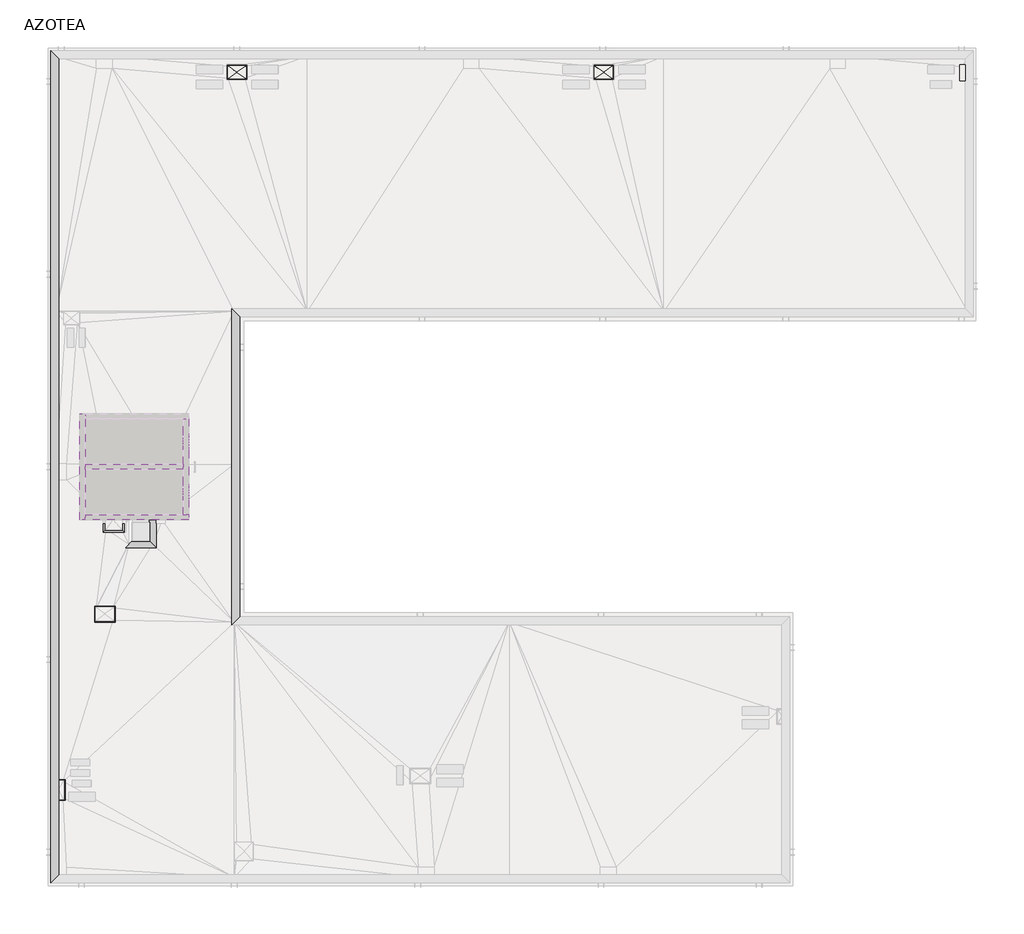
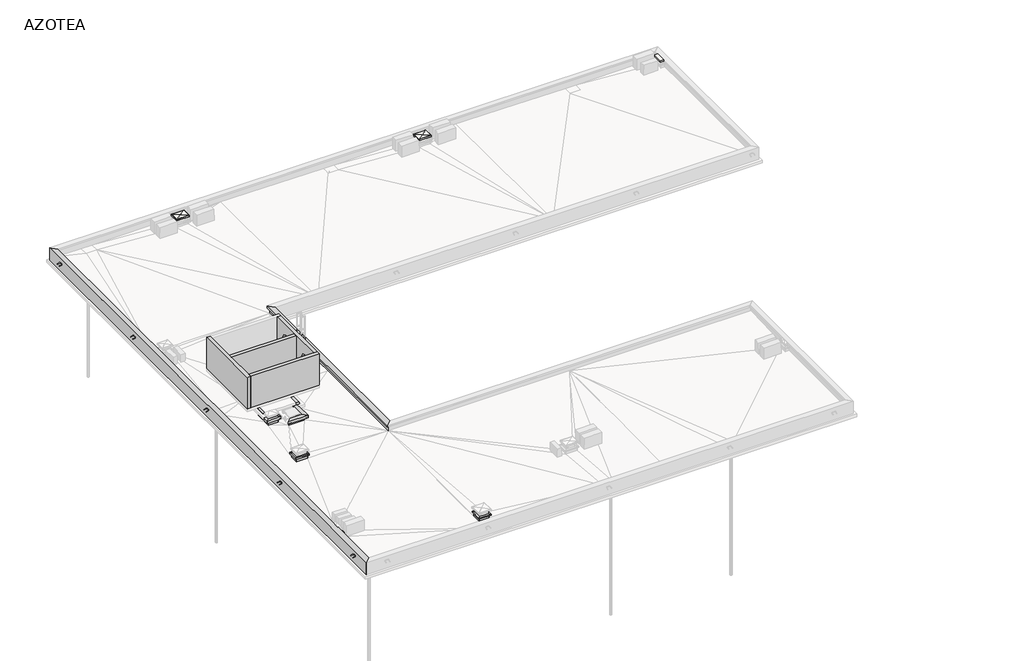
# One storey, part 4 of 6: 24 beams, 3 slabs, 2 proxies.
"""IFC4 building model written with IfcOpenShell, lengths in millimetres."""

from ifc_helpers import new_model, si_unit, frame, origin, place, context, project, spatial, polyline, circle_curve, outline, extrude, faceted_brep, element, save
from ifc_brep_helpers import plane_surface, revolved_surface, advanced_brep

model = new_model("IFC4")

# Units and contexts
model_context = context("Model", 3, world=origin())
ifc_project = project(units=[si_unit("LENGTHUNIT", "METRE", prefix="MILLI")], contexts=[model_context])

# Site, building, storey
site = spatial("IfcSite", under=ifc_project)
building = spatial("IfcBuilding", under=site)
storey = spatial("IfcBuildingStorey", under=building, Name="AZOTEA", Elevation=6570.0)

# Beams
placement = place(None, origin())
element("IfcBeam", 1, ObjectType="ARES-I-HA-Viga con aleta-PET : Viga pretil-20x90-aleta10x10cm-PET", at=placement, inside=storey, context=model_context, shape_type="Brep", body=[
    faceted_brep([(3458.7173693, 590.2304035, 7210.0), (3458.7173693, 31350.2304035, 7210.0), (3468.7173693, 31340.2304035, 7220.0), (3468.7173693, 600.2304035, 7220.0), (3478.7173693, 31330.2304035, 7210.0), (3478.7173693, 610.2304035, 7210.0), (3488.7173693, 31320.2304035, 7210.0), (3488.7173693, 4161.2570664, 7210.0), (3488.7173693, 3461.2570664, 7210.0), (3488.7173693, 620.2304035, 7210.0), (3488.7173693, 31320.2304035, 7310.0), (3488.7173693, 620.2304035, 7310.0), (3188.7173693, 31620.2304035, 7310.0), (3188.7173693, 320.2304035, 7310.0), (3188.7173693, 31620.2304035, 6570.0), (3188.7173693, 31620.2304035, 6410.0), (3188.7173693, 31020.2304035, 6410.0), (3188.7173693, 24920.2304035, 6410.0), (3188.7173693, 24720.2304035, 6410.0), (3188.7173693, 21820.2304035, 6410.0), (3188.7173693, 21620.2304035, 6410.0), (3188.7173693, 16070.2304035, 6410.0), (3188.7173693, 15870.2304035, 6410.0), (3188.7173693, 10320.2304035, 6410.0), (3188.7173693, 10120.2304035, 6410.0), (3188.7173693, 7220.2304035, 6410.0), (3188.7173693, 7020.2304035, 6410.0), (3188.7173693, 920.2304035, 6410.0), (3188.7173693, 320.2304035, 6410.0), (3188.7173693, 320.2304035, 6570.0), (3388.7173693, 31420.2304035, 6410.0), (3388.7173693, 31020.2304035, 6410.0), (3388.7173693, 24920.2304035, 6410.0), (3388.7173693, 24720.2304035, 6410.0), (3388.7173693, 21820.2304035, 6410.0), (3388.7173693, 21620.2304035, 6410.0), (3388.7173693, 16070.2304035, 6410.0), (3388.7173693, 15870.2304035, 6410.0), (3388.7173693, 10320.2304035, 6410.0), (3388.7173693, 10120.2304035, 6410.0), (3388.7173693, 7220.2304035, 6410.0), (3388.7173693, 7020.2304035, 6410.0), (3388.7173693, 4011.2570664, 6410.0), (3388.7173693, 3611.2570664, 6410.0), (3388.7173693, 920.2304035, 6410.0), (3388.7173693, 520.2304035, 6410.0), (3388.7173693, 31420.2304035, 7210.0), (3388.7173693, 520.2304035, 7210.0), (3388.7173693, 520.2304035, 6570.0), (3388.7173693, 31420.2304035, 6570.0)], [[[0, 1, 2, 3]], [[3, 2, 4, 5]], [[5, 4, 6, 7, 8, 9]], [[9, 8, 7, 6, 10, 11]], [[11, 10, 12, 13]], [[13, 12, 14, 15, 16, 17, 18, 19, 20, 21, 22, 23, 24, 25, 26, 27, 28, 29]], [[28, 27, 26, 25, 24, 23, 22, 21, 20, 19, 18, 17, 16, 15, 30, 31, 32, 33, 34, 35, 36, 37, 38, 39, 40, 41, 42, 43, 44, 45]], [[46, 47, 48, 45, 44, 43, 42, 41, 40, 39, 38, 37, 36, 35, 34, 33, 32, 31, 30, 49]], [[1, 0, 47, 46]], [[1, 46, 49, 30, 15, 14, 12, 10, 6, 4, 2]], [[0, 3, 5, 9, 11, 13, 29, 28, 45, 48, 47]]]),
])
element("IfcBeam", 2, ObjectType="ARES-I-HA-Viga con aleta-PET : Viga pretil-20x90-aleta10x10cm-PET", at=placement, inside=storey, context=model_context, shape_type="Brep", body=[
    faceted_brep([(10018.7173693, 21890.2304035, 7210.0), (10018.7173693, 10050.2304035, 7210.0), (10008.7173693, 10040.2304035, 7220.0), (10008.7173693, 21900.2304035, 7220.0), (9998.7173693, 10030.2304035, 7210.0), (9998.7173693, 21910.2304035, 7210.0), (9988.7173693, 10020.2304035, 7210.0), (9988.7173693, 21920.2304035, 7210.0), (9988.7173693, 10020.2304035, 7310.0), (9988.7173693, 21920.2304035, 7310.0), (10288.7173693, 10320.2304035, 7310.0), (10288.7173693, 21620.2304035, 7310.0), (10288.7173693, 10320.2304035, 6570.0), (10288.7173693, 10320.2304035, 6410.0), (10288.7173693, 13670.2304035, 6410.0), (10288.7173693, 13870.2304035, 6410.0), (10288.7173693, 18070.2304035, 6410.0), (10288.7173693, 18270.2304035, 6410.0), (10288.7173693, 21620.2304035, 6410.0), (10288.7173693, 21620.2304035, 6570.0), (10088.7173693, 10120.2304035, 6410.0), (10088.7173693, 10320.2304035, 6410.0), (10088.7173693, 13670.2304035, 6410.0), (10088.7173693, 13870.2304035, 6410.0), (10088.7173693, 18070.2304035, 6410.0), (10088.7173693, 18270.2304035, 6410.0), (10088.7173693, 21620.2304035, 6410.0), (10088.7173693, 21820.2304035, 6410.0), (10088.7173693, 10120.2304035, 6570.0), (10088.7173693, 10120.2304035, 7210.0), (10088.7173693, 21820.2304035, 7210.0), (10088.7173693, 21820.2304035, 6570.0)], [[[0, 1, 2, 3]], [[3, 2, 4, 5]], [[5, 4, 6, 7]], [[7, 6, 8, 9]], [[9, 8, 10, 11]], [[11, 10, 12, 13, 14, 15, 16, 17, 18, 19]], [[18, 17, 16, 15, 14, 13, 20, 21, 22, 23, 24, 25, 26, 27]], [[27, 26, 25, 24, 23, 22, 21, 20, 28, 29, 30, 31]], [[1, 0, 30, 29]], [[0, 3, 5, 7, 9, 11, 19, 18, 27, 31, 30]], [[1, 29, 28, 20, 13, 12, 10, 8, 6, 4, 2]]]),
])
element("IfcBeam", 3, ObjectType="ARES-I-HA-Viga con aleta-PET : Viga pretil-15x75cm-aleta12x15cm-PET", at=placement, inside=storey, context=model_context, shape_type="Brep", body=[
    faceted_brep([(7114.4126343, 12960.2304035, 7010.0), (7114.4126343, 13970.2304035, 7010.0), (7124.4126343, 13970.2304035, 7020.0), (7124.4126343, 12950.2304035, 7020.0), (7134.4126343, 13970.2304035, 7010.0), (7134.4126343, 12940.2304035, 7010.0), (7144.4126343, 13970.2304035, 7010.0), (7144.4126343, 13850.2304035, 7010.0), (7144.4126343, 12930.2304035, 7010.0), (7144.4126343, 13970.2304035, 7160.0), (7144.4126343, 13850.2304035, 7160.0), (7144.4126343, 12930.2304035, 7160.0), (6874.4126343, 13970.2304035, 7160.0), (6874.4126343, 13850.2304035, 7160.0), (6874.4126343, 13200.2304035, 7160.0), (6874.4126343, 13970.2304035, 6410.0), (6874.4126343, 13200.2304035, 6410.0), (6874.4126343, 13970.2304035, 7010.0), (7024.4126343, 13970.2304035, 6410.0), (7024.4126343, 13050.2304035, 6410.0), (7024.4126343, 13970.2304035, 6570.0), (7024.4126343, 13970.2304035, 7010.0), (7024.4126343, 13050.2304035, 7010.0), (7024.4126343, 13050.2304035, 6570.0)], [[[0, 1, 2, 3]], [[3, 2, 4, 5]], [[5, 4, 6, 7, 8]], [[6, 9, 10, 11, 8, 7]], [[9, 12, 13, 14, 11, 10]], [[15, 16, 14, 13, 12, 17]], [[16, 15, 18, 19]], [[19, 18, 20, 21, 22, 23]], [[1, 0, 22, 21]], [[1, 21, 20, 18, 15, 17, 12, 9, 6, 4, 2]], [[0, 3, 5, 8, 11, 14, 16, 19, 23, 22]]]),
])
element("IfcBeam", 4, ObjectType="ARES-I-HA-Viga con aleta-PET : Viga pretil-15x75cm-aleta12x15cm-PET", at=placement, inside=storey, context=model_context, shape_type="Brep", body=[
    faceted_brep([(6034.4126343, 12960.2304035, 7010.0), (7114.4126343, 12960.2304035, 7010.0), (7124.4126343, 12950.2304035, 7020.0), (6024.4126343, 12950.2304035, 7020.0), (7134.4126343, 12940.2304035, 7010.0), (6014.4126343, 12940.2304035, 7010.0), (7144.4126343, 12930.2304035, 7010.0), (6004.4126343, 12930.2304035, 7010.0), (7144.4126343, 12930.2304035, 7160.0), (6004.4126343, 12930.2304035, 7160.0), (6874.4126343, 13200.2304035, 7160.0), (6274.4126343, 13200.2304035, 7160.0), (6874.4126343, 13200.2304035, 6410.0), (6274.4126343, 13200.2304035, 6410.0), (7024.4126343, 13050.2304035, 6410.0), (6124.4126343, 13050.2304035, 6410.0), (7024.4126343, 13050.2304035, 6570.0), (7024.4126343, 13050.2304035, 7010.0), (6124.4126343, 13050.2304035, 7010.0), (6124.4126343, 13050.2304035, 6570.0)], [[[0, 1, 2, 3]], [[3, 2, 4, 5]], [[5, 4, 6, 7]], [[7, 6, 8, 9]], [[9, 8, 10, 11]], [[11, 10, 12, 13]], [[13, 12, 14, 15]], [[15, 14, 16, 17, 18, 19]], [[1, 0, 18, 17]], [[1, 17, 16, 14, 12, 10, 8, 6, 4, 2]], [[0, 3, 5, 7, 9, 11, 13, 15, 19, 18]]]),
])
element("IfcBeam", 5, ObjectType="ARES-I-HA-Viga con aleta-PET : Viga pretil-12x75cm-aleta12x15cm-PET", at=placement, inside=storey, context=model_context, shape_type="Brep", body=[
    faceted_brep([(5938.7173694, 13520.2304035, 7020.0), (5928.7173694, 13530.2304035, 7010.0), (5928.7173694, 13850.2304035, 7010.0), (5938.7173694, 13850.2304035, 7020.0), (5948.7173694, 13510.2304035, 7010.0), (5948.7173694, 13850.2304035, 7010.0), (5958.7173694, 13500.2304035, 7010.0), (5958.7173694, 13850.2304035, 7010.0), (5958.7173694, 13500.2304035, 7160.0), (5958.7173694, 13850.2304035, 7160.0), (5718.7173694, 13740.2304035, 7160.0), (5718.7173694, 13850.2304035, 7160.0), (5718.7173694, 13970.2304035, 6410.0), (5718.7173694, 13740.2304035, 6410.0), (5718.7173694, 13850.2304035, 7010.0), (5718.7173694, 13970.2304035, 7010.0), (5838.7173694, 13970.2304035, 6410.0), (5838.7173694, 13620.2304035, 6410.0), (5838.7173694, 13970.2304035, 6570.0), (5838.7173694, 13970.2304035, 7010.0), (5838.7173694, 13850.2304035, 7010.0), (5838.7173694, 13620.2304035, 7010.0), (5838.7173694, 13620.2304035, 6570.0)], [[[0, 1, 2, 3]], [[4, 0, 3, 5]], [[6, 4, 5, 7]], [[8, 6, 7, 9]], [[10, 8, 9, 11]], [[12, 13, 10, 11, 14, 15]], [[13, 12, 16, 17]], [[17, 16, 18, 19, 20, 21, 22]], [[1, 21, 20, 2]], [[16, 12, 15, 19, 18]], [[1, 0, 4, 6, 8, 10, 13, 17, 22, 21]], [[14, 20, 19, 15]], [[20, 14, 11, 9, 7, 5, 3, 2]]]),
])
element("IfcBeam", 6, ObjectType="ARES-I-HA-Viga con aleta-PET : Viga pretil-12x75cm-aleta12x15cm-PET", at=placement, inside=storey, context=model_context, shape_type="Brep", body=[
    faceted_brep([(5178.7173694, 13530.2304035, 7010.0), (5928.7173694, 13530.2304035, 7010.0), (5938.7173694, 13520.2304035, 7020.0), (5168.7173694, 13520.2304035, 7020.0), (5948.7173694, 13510.2304035, 7010.0), (5158.7173694, 13510.2304035, 7010.0), (5958.7173694, 13500.2304035, 7010.0), (5148.7173694, 13500.2304035, 7010.0), (5958.7173694, 13500.2304035, 7160.0), (5148.7173694, 13500.2304035, 7160.0), (5718.7173694, 13740.2304035, 7160.0), (5388.7173694, 13740.2304035, 7160.0), (5718.7173694, 13740.2304035, 6410.0), (5388.7173694, 13740.2304035, 6410.0), (5838.7173694, 13620.2304035, 6410.0), (5268.7173694, 13620.2304035, 6410.0), (5838.7173694, 13620.2304035, 6570.0), (5838.7173694, 13620.2304035, 7010.0), (5268.7173694, 13620.2304035, 7010.0), (5268.7173694, 13620.2304035, 6570.0)], [[[0, 1, 2, 3]], [[3, 2, 4, 5]], [[5, 4, 6, 7]], [[7, 6, 8, 9]], [[9, 8, 10, 11]], [[11, 10, 12, 13]], [[13, 12, 14, 15]], [[15, 14, 16, 17, 18, 19]], [[1, 0, 18, 17]], [[1, 17, 16, 14, 12, 10, 8, 6, 4, 2]], [[0, 3, 5, 7, 9, 11, 13, 15, 19, 18]]]),
])
element("IfcBeam", 7, ObjectType="ARES-I-HA-Viga con aleta-PET : Viga pretil-12x75cm-aleta12x15cm-PET", at=placement, inside=storey, context=model_context, shape_type="Brep", body=[
    faceted_brep([(5178.7173694, 13530.2304035, 7010.0), (5168.7173694, 13520.2304035, 7020.0), (5168.7173694, 13850.2304035, 7020.0), (5178.7173694, 13850.2304035, 7010.0), (5158.7173694, 13510.2304035, 7010.0), (5158.7173694, 13850.2304035, 7010.0), (5148.7173694, 13500.2304035, 7010.0), (5148.7173694, 13850.2304035, 7010.0), (5148.7173694, 13500.2304035, 7160.0), (5148.7173694, 13850.2304035, 7160.0), (5388.7173694, 13740.2304035, 7160.0), (5388.7173694, 13850.2304035, 7160.0), (5388.7173694, 13740.2304035, 6410.0), (5388.7173694, 13970.2304035, 6410.0), (5388.7173694, 13970.2304035, 7010.0), (5388.7173694, 13850.2304035, 7010.0), (5268.7173694, 13620.2304035, 6410.0), (5268.7173694, 13970.2304035, 6410.0), (5268.7173694, 13620.2304035, 6570.0), (5268.7173694, 13620.2304035, 7010.0), (5268.7173694, 13850.2304035, 7010.0), (5268.7173694, 13970.2304035, 7010.0), (5268.7173694, 13970.2304035, 6570.0)], [[[0, 1, 2, 3]], [[1, 4, 5, 2]], [[4, 6, 7, 5]], [[6, 8, 9, 7]], [[8, 10, 11, 9]], [[12, 13, 14, 15, 11, 10]], [[13, 12, 16, 17]], [[17, 16, 18, 19, 20, 21, 22]], [[19, 0, 3, 20]], [[13, 17, 22, 21, 14]], [[0, 19, 18, 16, 12, 10, 8, 6, 4, 1]], [[20, 15, 14, 21]], [[15, 20, 3, 2, 5, 7, 9, 11]]]),
])
element("IfcBeam", 8, ObjectType="ARES-I-HA-Viga con aleta-PET : Viga pretil-12x66cm-aleta7x7cm-PET", at=placement, inside=storey, context=model_context, shape_type="Brep", body=[
    faceted_brep([(5578.7212045, 10700.2304035, 7000.0), (4858.7212045, 10700.2304035, 7000.0), (4848.7212045, 10710.2304035, 7010.0), (5588.7212045, 10710.2304035, 7010.0), (4838.7212045, 10720.2304035, 7000.0), (5598.7212045, 10720.2304035, 7000.0), (4828.7212045, 10730.2304035, 7000.0), (5608.7212045, 10730.2304035, 7000.0), (4828.7212045, 10730.2304035, 7070.0), (5608.7212045, 10730.2304035, 7070.0), (5018.7212045, 10540.2304035, 7070.0), (5418.7212045, 10540.2304035, 7070.0), (5018.7212045, 10540.2304035, 6410.0), (5418.7212045, 10540.2304035, 6410.0), (4898.7212045, 10660.2304035, 6410.0), (5538.7212045, 10660.2304035, 6410.0), (4898.7212045, 10660.2304035, 6570.0), (4898.7212045, 10660.2304035, 7000.0), (5538.7212045, 10660.2304035, 7000.0), (5538.7212045, 10660.2304035, 6570.0)], [[[0, 1, 2, 3]], [[3, 2, 4, 5]], [[5, 4, 6, 7]], [[7, 6, 8, 9]], [[9, 8, 10, 11]], [[11, 10, 12, 13]], [[13, 12, 14, 15]], [[15, 14, 16, 17, 18, 19]], [[1, 0, 18, 17]], [[0, 3, 5, 7, 9, 11, 13, 15, 19, 18]], [[1, 17, 16, 14, 12, 10, 8, 6, 4, 2]]]),
])
element("IfcBeam", 9, ObjectType="ARES-I-HA-Viga con aleta-PET : Viga pretil-12x66cm-aleta7x7cm-PET", at=placement, inside=storey, context=model_context, shape_type="Brep", body=[
    faceted_brep([(5578.7212045, 10160.2304035, 7000.0), (5578.7212045, 10700.2304035, 7000.0), (5588.7212045, 10710.2304035, 7010.0), (5588.7212045, 10150.2304035, 7010.0), (5598.7212045, 10720.2304035, 7000.0), (5598.7212045, 10140.2304035, 7000.0), (5608.7212045, 10730.2304035, 7000.0), (5608.7212045, 10130.2304035, 7000.0), (5608.7212045, 10730.2304035, 7070.0), (5608.7212045, 10130.2304035, 7070.0), (5418.7212045, 10540.2304035, 7070.0), (5418.7212045, 10320.2304035, 7070.0), (5418.7212045, 10540.2304035, 6410.0), (5418.7212045, 10320.2304035, 6410.0), (5418.7212045, 10320.2304035, 6570.0), (5538.7212045, 10660.2304035, 6410.0), (5538.7212045, 10320.2304035, 6410.0), (5538.7212045, 10660.2304035, 7000.0), (5538.7212045, 10200.2304035, 7000.0), (5538.7212045, 10200.2304035, 6570.0), (5538.7212045, 10320.2304035, 6570.0), (5538.7212045, 10660.2304035, 6570.0)], [[[0, 1, 2, 3]], [[3, 2, 4, 5]], [[5, 4, 6, 7]], [[7, 6, 8, 9]], [[9, 8, 10, 11]], [[11, 10, 12, 13, 14]], [[13, 12, 15, 16]], [[17, 18, 19, 20, 16, 15, 21]], [[1, 0, 18, 17]], [[0, 3, 5, 7, 9, 11, 14, 19, 18]], [[1, 17, 21, 15, 12, 10, 8, 6, 4, 2]], [[14, 20, 19]], [[20, 14, 13, 16]]]),
])
element("IfcBeam", 10, ObjectType="ARES-I-HA-Viga con aleta-PET : Viga pretil-12x66cm-aleta7x7cm-PET", at=placement, inside=storey, context=model_context, shape_type="Brep", body=[
    faceted_brep([(4858.7212045, 10160.2304035, 7000.0), (5578.7212045, 10160.2304035, 7000.0), (5588.7212045, 10150.2304035, 7010.0), (4848.7212045, 10150.2304035, 7010.0), (5598.7212045, 10140.2304035, 7000.0), (4838.7212045, 10140.2304035, 7000.0), (5608.7212045, 10130.2304035, 7000.0), (4828.7212045, 10130.2304035, 7000.0), (5608.7212045, 10130.2304035, 7070.0), (4828.7212045, 10130.2304035, 7070.0), (5418.7212045, 10320.2304035, 7070.0), (5018.7212045, 10320.2304035, 7070.0), (5418.7212045, 10320.2304035, 6570.0), (5018.7212045, 10320.2304035, 6570.0), (5538.7212045, 10200.2304035, 7000.0), (4898.7212045, 10200.2304035, 7000.0), (4898.7212045, 10200.2304035, 6570.0), (5538.7212045, 10200.2304035, 6570.0)], [[[0, 1, 2, 3]], [[3, 2, 4, 5]], [[5, 4, 6, 7]], [[7, 6, 8, 9]], [[9, 8, 10, 11]], [[11, 10, 12, 13]], [[14, 15, 16, 17]], [[1, 0, 15, 14]], [[0, 3, 5, 7, 9, 11, 13, 16, 15]], [[1, 14, 17, 12, 10, 8, 6, 4, 2]], [[13, 12, 17, 16]]]),
])
element("IfcBeam", 11, ObjectType="ARES-I-HA-Viga con aleta-PET : Viga pretil-12x66cm-aleta7x7cm-PET", at=placement, inside=storey, context=model_context, shape_type="Brep", body=[
    faceted_brep([(4858.7212045, 10700.2304035, 7000.0), (4858.7212045, 10160.2304035, 7000.0), (4848.7212045, 10150.2304035, 7010.0), (4848.7212045, 10710.2304035, 7010.0), (4838.7212045, 10140.2304035, 7000.0), (4838.7212045, 10720.2304035, 7000.0), (4828.7212045, 10130.2304035, 7000.0), (4828.7212045, 10730.2304035, 7000.0), (4828.7212045, 10130.2304035, 7070.0), (4828.7212045, 10730.2304035, 7070.0), (5018.7212045, 10320.2304035, 7070.0), (5018.7212045, 10540.2304035, 7070.0), (5018.7212045, 10320.2304035, 6570.0), (5018.7212045, 10320.2304035, 6410.0), (5018.7212045, 10540.2304035, 6410.0), (4898.7212045, 10320.2304035, 6410.0), (4898.7212045, 10660.2304035, 6410.0), (4898.7212045, 10200.2304035, 7000.0), (4898.7212045, 10660.2304035, 7000.0), (4898.7212045, 10660.2304035, 6570.0), (4898.7212045, 10320.2304035, 6570.0), (4898.7212045, 10200.2304035, 6570.0)], [[[0, 1, 2, 3]], [[3, 2, 4, 5]], [[5, 4, 6, 7]], [[7, 6, 8, 9]], [[9, 8, 10, 11]], [[11, 10, 12, 13, 14]], [[14, 13, 15, 16]], [[17, 18, 19, 16, 15, 20, 21]], [[1, 0, 18, 17]], [[0, 3, 5, 7, 9, 11, 14, 16, 19, 18]], [[1, 17, 21, 12, 10, 8, 6, 4, 2]], [[20, 12, 21]], [[12, 20, 15, 13]]]),
])
element("IfcBeam", 12, ObjectType="ARES-I-HA-Viga con aleta-PET : Viga pretil-12x66cm-aleta7x7cm-PET", at=placement, inside=storey, context=model_context, shape_type="Brep", body=[
    faceted_brep([(3698.7173693, 3451.2570664, 7000.0), (3708.7173693, 3441.2570664, 7010.0), (3388.7173693, 3441.2570664, 7010.0), (3388.7173693, 3451.2570664, 7000.0), (3718.7173693, 3431.2570664, 7000.0), (3388.7173693, 3431.2570664, 7000.0), (3728.7173693, 3421.2570664, 7000.0), (3388.7173693, 3421.2570664, 7000.0), (3728.7173693, 3421.2570664, 7070.0), (3388.7173693, 3421.2570664, 7070.0), (3538.7173693, 3611.2570664, 7070.0), (3388.7173693, 3611.2570664, 7070.0), (3538.7173693, 3611.2570664, 6570.0), (3388.7173693, 3611.2570664, 6570.0), (3658.7173693, 3491.2570664, 7000.0), (3388.7173693, 3491.2570664, 7000.0), (3388.7173693, 3491.2570664, 6570.0), (3658.7173693, 3491.2570664, 6570.0)], [[[0, 1, 2, 3]], [[1, 4, 5, 2]], [[4, 6, 7, 5]], [[6, 8, 9, 7]], [[8, 10, 11, 9]], [[11, 10, 12, 13]], [[14, 15, 16, 17]], [[14, 0, 3, 15]], [[0, 14, 17, 12, 10, 8, 6, 4, 1]], [[3, 2, 5, 7, 9, 11, 13, 16, 15]], [[13, 12, 17, 16]]]),
])
element("IfcBeam", 13, ObjectType="ARES-I-HA-Viga con aleta-PET : Viga pretil-12x66cm-aleta7x7cm-PET", at=placement, inside=storey, context=model_context, shape_type="Brep", body=[
    faceted_brep([(3698.7173693, 3451.2570664, 7000.0), (3698.7173693, 4171.2570664, 7000.0), (3708.7173693, 4181.2570664, 7010.0), (3708.7173693, 3441.2570664, 7010.0), (3718.7173693, 4191.2570664, 7000.0), (3718.7173693, 3431.2570664, 7000.0), (3728.7173693, 4201.2570664, 7000.0), (3728.7173693, 3421.2570664, 7000.0), (3728.7173693, 4201.2570664, 7070.0), (3728.7173693, 3421.2570664, 7070.0), (3538.7173693, 4011.2570664, 7070.0), (3538.7173693, 3611.2570664, 7070.0), (3538.7173693, 4011.2570664, 6570.0), (3538.7173693, 3611.2570664, 6570.0), (3658.7173693, 4131.2570664, 7000.0), (3658.7173693, 3491.2570664, 7000.0), (3658.7173693, 3491.2570664, 6570.0), (3658.7173693, 4131.2570664, 6570.0)], [[[0, 1, 2, 3]], [[3, 2, 4, 5]], [[5, 4, 6, 7]], [[7, 6, 8, 9]], [[9, 8, 10, 11]], [[11, 10, 12, 13]], [[14, 15, 16, 17]], [[1, 0, 15, 14]], [[0, 3, 5, 7, 9, 11, 13, 16, 15]], [[1, 14, 17, 12, 10, 8, 6, 4, 2]], [[13, 12, 17, 16]]]),
])
element("IfcBeam", 14, ObjectType="ARES-I-HA-Viga con aleta-PET : Viga pretil-12x66cm-aleta7x7cm-PET", at=placement, inside=storey, context=model_context, shape_type="Brep", body=[
    faceted_brep([(3708.7173693, 4181.2570664, 7010.0), (3698.7173693, 4171.2570664, 7000.0), (3388.7173693, 4171.2570664, 7000.0), (3388.7173693, 4181.2570664, 7010.0), (3718.7173693, 4191.2570664, 7000.0), (3388.7173693, 4191.2570664, 7000.0), (3728.7173693, 4201.2570664, 7000.0), (3388.7173693, 4201.2570664, 7000.0), (3728.7173693, 4201.2570664, 7070.0), (3388.7173693, 4201.2570664, 7070.0), (3538.7173693, 4011.2570664, 7070.0), (3388.7173693, 4011.2570664, 7070.0), (3388.7173693, 4011.2570664, 6570.0), (3538.7173693, 4011.2570664, 6570.0), (3388.7173693, 4131.2570664, 7000.0), (3658.7173693, 4131.2570664, 7000.0), (3658.7173693, 4131.2570664, 6570.0), (3388.7173693, 4131.2570664, 6570.0)], [[[0, 1, 2, 3]], [[4, 0, 3, 5]], [[6, 4, 5, 7]], [[8, 6, 7, 9]], [[10, 8, 9, 11]], [[10, 11, 12, 13]], [[14, 15, 16, 17]], [[1, 15, 14, 2]], [[1, 0, 4, 6, 8, 10, 13, 16, 15]], [[3, 2, 14, 17, 12, 11, 9, 7, 5]], [[13, 12, 17, 16]]]),
])
element("IfcBeam", 15, ObjectType="ARES-I-HA-Viga con aleta-PET : Viga pretil-12x66cm-aleta7x7cm-PET", at=placement, inside=storey, context=model_context, shape_type="Brep", body=[
    faceted_brep([(10761.2173694, 1805.2304035, 7000.0), (10128.7173694, 1805.2304035, 7000.0), (10118.7173694, 1815.2304035, 7010.0), (10771.2173694, 1815.2304035, 7010.0), (10108.7173694, 1825.2304035, 7000.0), (10781.2173694, 1825.2304035, 7000.0), (10098.7173694, 1835.2304035, 7000.0), (10791.2173694, 1835.2304035, 7000.0), (10098.7173694, 1835.2304035, 7070.0), (10791.2173694, 1835.2304035, 7070.0), (10288.7173694, 1645.2304035, 7070.0), (10601.2173694, 1645.2304035, 7070.0), (10288.7173694, 1645.2304035, 6570.0), (10601.2173694, 1645.2304035, 6570.0), (10168.7173694, 1765.2304035, 7000.0), (10721.2173694, 1765.2304035, 7000.0), (10721.2173694, 1765.2304035, 6570.0), (10168.7173694, 1765.2304035, 6570.0)], [[[0, 1, 2, 3]], [[3, 2, 4, 5]], [[5, 4, 6, 7]], [[7, 6, 8, 9]], [[9, 8, 10, 11]], [[11, 10, 12, 13]], [[14, 15, 16, 17]], [[1, 0, 15, 14]], [[0, 3, 5, 7, 9, 11, 13, 16, 15]], [[1, 14, 17, 12, 10, 8, 6, 4, 2]], [[12, 17, 16, 13]]]),
])
element("IfcBeam", 16, ObjectType="ARES-I-HA-Viga con aleta-PET : Viga pretil-12x66cm-aleta7x7cm-PET", at=placement, inside=storey, context=model_context, shape_type="Brep", body=[
    faceted_brep([(10761.2173694, 1185.2304035, 7000.0), (10761.2173694, 1805.2304035, 7000.0), (10771.2173694, 1815.2304035, 7010.0), (10771.2173694, 1175.2304035, 7010.0), (10781.2173694, 1825.2304035, 7000.0), (10781.2173694, 1165.2304035, 7000.0), (10791.2173694, 1835.2304035, 7000.0), (10791.2173694, 1155.2304035, 7000.0), (10791.2173694, 1835.2304035, 7070.0), (10791.2173694, 1155.2304035, 7070.0), (10601.2173694, 1645.2304035, 7070.0), (10601.2173694, 1345.2304035, 7070.0), (10601.2173694, 1645.2304035, 6570.0), (10601.2173694, 1495.2304035, 6570.0), (10601.2173694, 1345.2304035, 6570.0), (10721.2173694, 1765.2304035, 7000.0), (10721.2173694, 1225.2304035, 7000.0), (10721.2173694, 1225.2304035, 6570.0), (10721.2173694, 1765.2304035, 6570.0)], [[[0, 1, 2, 3]], [[3, 2, 4, 5]], [[5, 4, 6, 7]], [[7, 6, 8, 9]], [[9, 8, 10, 11]], [[11, 10, 12, 13, 14]], [[15, 16, 17, 18]], [[1, 0, 16, 15]], [[1, 15, 18, 12, 10, 8, 6, 4, 2]], [[0, 3, 5, 7, 9, 11, 14, 17, 16]], [[14, 13, 12, 18, 17]]]),
])
element("IfcBeam", 17, ObjectType="ARES-I-HA-Viga con aleta-PET : Viga pretil-12x66cm-aleta7x7cm-PET", at=placement, inside=storey, context=model_context, shape_type="Brep", body=[
    faceted_brep([(10128.7173694, 1185.2304035, 7000.0), (10761.2173694, 1185.2304035, 7000.0), (10771.2173694, 1175.2304035, 7010.0), (10118.7173694, 1175.2304035, 7010.0), (10781.2173694, 1165.2304035, 7000.0), (10108.7173694, 1165.2304035, 7000.0), (10791.2173694, 1155.2304035, 7000.0), (10098.7173694, 1155.2304035, 7000.0), (10791.2173694, 1155.2304035, 7070.0), (10098.7173694, 1155.2304035, 7070.0), (10601.2173694, 1345.2304035, 7070.0), (10288.7173694, 1345.2304035, 7070.0), (10601.2173694, 1345.2304035, 6570.0), (10288.7173694, 1345.2304035, 6570.0), (10721.2173694, 1225.2304035, 7000.0), (10168.7173694, 1225.2304035, 7000.0), (10168.7173694, 1225.2304035, 6570.0), (10721.2173694, 1225.2304035, 6570.0)], [[[0, 1, 2, 3]], [[3, 2, 4, 5]], [[5, 4, 6, 7]], [[7, 6, 8, 9]], [[9, 8, 10, 11]], [[11, 10, 12, 13]], [[14, 15, 16, 17]], [[1, 0, 15, 14]], [[1, 14, 17, 12, 10, 8, 6, 4, 2]], [[0, 3, 5, 7, 9, 11, 13, 16, 15]], [[12, 17, 16, 13]]]),
])
element("IfcBeam", 18, ObjectType="ARES-I-HA-Viga con aleta-PET : Viga pretil-12x66cm-aleta7x7cm-PET", at=placement, inside=storey, context=model_context, shape_type="Brep", body=[
    faceted_brep([(10128.7173694, 1805.2304035, 7000.0), (10128.7173694, 1185.2304035, 7000.0), (10118.7173694, 1175.2304035, 7010.0), (10118.7173694, 1815.2304035, 7010.0), (10108.7173694, 1165.2304035, 7000.0), (10108.7173694, 1825.2304035, 7000.0), (10098.7173694, 1155.2304035, 7000.0), (10098.7173694, 1835.2304035, 7000.0), (10098.7173694, 1155.2304035, 7070.0), (10098.7173694, 1835.2304035, 7070.0), (10288.7173694, 1345.2304035, 7070.0), (10288.7173694, 1645.2304035, 7070.0), (10288.7173694, 1345.2304035, 6570.0), (10288.7173694, 1645.2304035, 6570.0), (10168.7173694, 1225.2304035, 7000.0), (10168.7173694, 1765.2304035, 7000.0), (10168.7173694, 1765.2304035, 6570.0), (10168.7173694, 1225.2304035, 6570.0)], [[[0, 1, 2, 3]], [[3, 2, 4, 5]], [[5, 4, 6, 7]], [[7, 6, 8, 9]], [[9, 8, 10, 11]], [[11, 10, 12, 13]], [[14, 15, 16, 17]], [[1, 0, 15, 14]], [[0, 3, 5, 7, 9, 11, 13, 16, 15]], [[1, 14, 17, 12, 10, 8, 6, 4, 2]], [[13, 12, 17, 16]]]),
])
element("IfcBeam", 19, ObjectType="ARES-I-HA-Viga rectangular-PET : Viga-15x75cm-PET", at=placement, inside=storey, context=model_context, shape_type="Brep", body=[
    faceted_brep([(5418.7173693, 14170.2304035, 7160.0), (5418.7173693, 15870.2304035, 7160.0), (5268.7173693, 15870.2304035, 7160.0), (5268.7173693, 14170.2304035, 7160.0), (5268.7173693, 15870.2304035, 7010.0), (5268.7173693, 15870.2304035, 6570.0), (5268.7173693, 15870.2304035, 6410.0), (5268.7173693, 14170.2304035, 6410.0), (5268.7173693, 14170.2304035, 6570.0), (5268.7173693, 14170.2304035, 7010.0), (5418.7173693, 15870.2304035, 6410.0), (5418.7173693, 14170.2304035, 6410.0), (5418.7173693, 14170.2304035, 7010.0), (5418.7173693, 15870.2304035, 7010.0)], [[[0, 1, 2, 3]], [[3, 2, 4, 5, 6, 7, 8, 9]], [[7, 6, 10, 11]], [[1, 0, 12, 11, 10, 13]], [[1, 13, 10, 6, 5, 4, 2]], [[0, 3, 9, 8, 7, 11, 12]]]),
])
element("IfcBeam", 20, ObjectType="ARES-I-HA-Viga rectangular-PET : Viga-20x125cm-PET", at=placement, inside=storey, context=model_context, shape_type="Brep", body=[
    faceted_brep([(7368.7173693, 15870.2304035, 7160.0), (7168.7173693, 15870.2304035, 7160.0), (7168.7173693, 14170.2304035, 7160.0), (7368.7173693, 14170.2304035, 7160.0), (7368.7173693, 14170.2304035, 7010.0), (7368.7173693, 14170.2304035, 5910.0), (7368.7173693, 15870.2304035, 5910.0), (7368.7173693, 15870.2304035, 7010.0), (7168.7173693, 15870.2304035, 5910.0), (7168.7173693, 14170.2304035, 5910.0), (7168.7173693, 15870.2304035, 7010.0), (7168.7173693, 14170.2304035, 7010.0)], [[[0, 1, 2, 3]], [[0, 3, 4, 5, 6, 7]], [[8, 6, 5, 9]], [[1, 10, 8, 9, 11, 2]], [[6, 8, 10, 1, 0, 7]], [[9, 5, 4, 3, 2, 11]]]),
])
element("IfcBeam", 21, ObjectType="ARES-I-HA-Viga rectangular-PET : Viga-20x209cm-PET", at=placement, inside=storey, context=model_context, shape_type="Brep", body=[
    faceted_brep([(4474.4126343, 13970.2304035, 7910.0), (4474.4126343, 14170.2304035, 7910.0), (4474.4126343, 15870.2304035, 7910.0), (4474.4126343, 16070.2304035, 7910.0), (4474.4126343, 17770.2304035, 7910.0), (4474.4126343, 17970.2304035, 7910.0), (4474.4126343, 17970.2304035, 9810.0), (4474.4126343, 17770.2304035, 9810.0), (4474.4126343, 16070.2304035, 9810.0), (4474.4126343, 15870.2304035, 9810.0), (4474.4126343, 14170.2304035, 9810.0), (4474.4126343, 13970.2304035, 9810.0), (4274.4126343, 17970.2304035, 7910.0), (4274.4126343, 13970.2304035, 7910.0), (4274.4126343, 13970.2304035, 9810.0), (4274.4126343, 17970.2304035, 9810.0)], [[[0, 1, 2, 3, 4, 5, 6, 7, 8, 9, 10, 11]], [[12, 13, 14, 15]], [[5, 4, 3, 2, 1, 0, 13, 12]], [[11, 10, 9, 8, 7, 6, 15, 14]], [[5, 12, 15, 6]], [[13, 0, 11, 14]]]),
])
element("IfcBeam", 22, ObjectType="ARES-I-HA-Viga rectangular-PET : Viga-20x209cm-PET", at=placement, inside=storey, context=model_context, shape_type="Brep", body=[
    faceted_brep([(4474.4126343, 13970.2304035, 7910.0), (8374.4126343, 13970.2304035, 7910.0), (8374.4126343, 13970.2304035, 9810.0), (4474.4126343, 13970.2304035, 9810.0), (8374.4126343, 14170.2304035, 7910.0), (8174.4126343, 14170.2304035, 7910.0), (4474.4126343, 14170.2304035, 7910.0), (4474.4126343, 14170.2304035, 9810.0), (8174.4126343, 14170.2304035, 9810.0), (8374.4126343, 14170.2304035, 9810.0)], [[[0, 1, 2, 3]], [[4, 5, 6, 7, 8, 9]], [[6, 0, 3, 7]], [[1, 0, 6, 5, 4]], [[3, 2, 9, 8, 7]], [[1, 4, 9, 2]]]),
])
element("IfcBeam", 23, ObjectType="ARES-I-HA-Viga rectangular-PET : Viga-20x209cm-PET", at=placement, inside=storey, context=model_context, shape_type="SweptSolid", body=[
    extrude(outline(polyline([(4474.4126343, 15870.2304035), (4474.4126343, 16070.2304035), (8174.4126343, 16070.2304035), (8174.4126343, 15870.2304035), (4474.4126343, 15870.2304035)])), frame((0.0, 0.0, 7910.0), z_axis=(0.0, 0.0, 1.0), x_axis=(1.0, 0.0, 0.0)), (0.0, 0.0, 1.0), 1900.0),
])
element("IfcBeam", 24, ObjectType="ARES-I-HA-Viga rectangular-PET : Viga-20x209cm-PET", at=placement, inside=storey, context=model_context, shape_type="AdvancedBrep", body=[
    advanced_brep(
    [(8374.4126343, 14170.2304035, 7910.0), (8374.4126343, 17770.2304035, 7910.0), (8374.4126343, 17770.2304035, 9810.0), (8374.4126343, 14170.2304035, 9810.0), (8374.4126343, 14720.2304035, 8900.0), (8374.4126343, 15320.2304035, 8900.0), (8374.4126343, 17220.2304035, 8900.0), (8374.4126343, 16620.2304035, 8900.0), (8174.4126343, 17770.2304035, 7910.0), (8174.4126343, 16070.2304035, 7910.0), (8174.4126343, 15870.2304035, 7910.0), (8174.4126343, 14170.2304035, 7910.0), (8174.4126343, 14170.2304035, 9810.0), (8174.4126343, 15870.2304035, 9810.0), (8174.4126343, 16070.2304035, 9810.0), (8174.4126343, 17770.2304035, 9810.0), (8174.4126343, 15320.2304035, 8900.0), (8174.4126343, 14720.2304035, 8900.0), (8174.4126343, 16620.2304035, 8900.0), (8174.4126343, 17220.2304035, 8900.0)],
    [
        (0, 1),
        (1, 2),
        (2, 3),
        (3, 0),
        (4, 5, circle_curve(frame((8374.4126343, 15020.2304035, 8900.0), z_axis=(-1.0, 0.0, 0.0), x_axis=(0.0, -1.0, 0.0)), 300.0)),
        (5, 4, circle_curve(frame((8374.4126343, 15020.2304035, 8900.0), z_axis=(-1.0, 0.0, 0.0), x_axis=(0.0, -1.0, 0.0)), 300.0)),
        (6, 7, circle_curve(frame((8374.4126343, 16920.2304035, 8900.0), z_axis=(-1.0, 0.0, 0.0), x_axis=(0.0, -1.0, 0.0)), 300.0)),
        (7, 6, circle_curve(frame((8374.4126343, 16920.2304035, 8900.0), z_axis=(-1.0, 0.0, 0.0), x_axis=(0.0, -1.0, 0.0)), 300.0)),
        (8, 9),
        (9, 10),
        (10, 11),
        (11, 12),
        (12, 13),
        (13, 14),
        (14, 15),
        (15, 8),
        (16, 17, circle_curve(frame((8174.4126343, 15020.2304035, 8900.0), z_axis=(1.0, 0.0, 0.0), x_axis=(0.0, -1.0, 0.0)), 300.0)),
        (17, 16, circle_curve(frame((8174.4126343, 15020.2304035, 8900.0), z_axis=(1.0, 0.0, 0.0), x_axis=(0.0, -1.0, 0.0)), 300.0)),
        (18, 19, circle_curve(frame((8174.4126343, 16920.2304035, 8900.0), z_axis=(1.0, 0.0, 0.0), x_axis=(0.0, -1.0, 0.0)), 300.0)),
        (19, 18, circle_curve(frame((8174.4126343, 16920.2304035, 8900.0), z_axis=(1.0, 0.0, 0.0), x_axis=(0.0, -1.0, 0.0)), 300.0)),
        (1, 8),
        (15, 2),
        (11, 0),
        (3, 12),
        (16, 5),
        (4, 17),
        (6, 19),
        (18, 7),
    ],
    [
        plane_surface(frame((8374.4126343, 17770.2304035, 8805.0), z_axis=(1.0, 0.0, 0.0), x_axis=(0.0, 0.0, -1.0))),
        plane_surface(frame((8174.4126343, 17770.2304035, 8805.0), z_axis=(-1.0, 0.0, 0.0), x_axis=(0.0, 0.0, 1.0))),
        plane_surface(frame((8174.4126343, 17770.2304035, 8805.0), z_axis=(0.0, 1.0, 0.0), x_axis=(0.0, 0.0, -1.0))),
        plane_surface(frame((8174.4126343, 14170.2304035, 8805.0), z_axis=(0.0, -1.0, 0.0), x_axis=(0.0, 0.0, 1.0))),
        plane_surface(frame((8374.4126343, 18570.2304035, 7910.0), z_axis=(0.0, 0.0, -1.0), x_axis=(0.0, 1.0, 0.0))),
        plane_surface(frame((8374.4126343, 17970.2304035, 9810.0), z_axis=(0.0, 0.0, 1.0), x_axis=(0.0, -1.0, 0.0))),
        revolved_surface(polyline([(8374.4126343, 14720.2304035, 8900.0), (8174.4126343, 14720.2304035, 8900.0)]), (4474.4126343, 15020.2304035, 8900.0), (1.0, 0.0, 0.0)),
        revolved_surface(polyline([(8174.4126343, 16620.2304035, 8900.0), (8374.4126343, 16620.2304035, 8900.0)]), (12074.4126343, 16920.2304035, 8900.0), (-1.0, 0.0, 0.0)),
    ],
    [
        (0, [[1, 2, 3, 4], [5, 6], [7, 8]]),
        (1, [[9, 10, 11, 12, 13, 14, 15, 16], [17, 18], [19, 20]]),
        (2, [[21, -16, 22, -2]]),
        (3, [[23, -4, 24, -12]]),
        (4, [[-1, -23, -11, -10, -9, -21]]),
        (5, [[-3, -22, -15, -14, -13, -24]]),
        (6, [[25, -5, 26, -17]]),
        (6, [[-25, -18, -26, -6]]),
        (7, [[27, -19, 28, -7]]),
        (7, [[-27, -8, -28, -20]]),
    ],
),
])

# Proxies
element("IfcBuildingElementProxy", 25, Name="Goterón", ObjectType="Goterón", at=placement, inside=storey, context=model_context, shape_type="Brep", body=[
    faceted_brep([(10538.7173694, 31070.2304035, 7340.0), (10548.7173694, 31080.2304035, 7340.0), (9828.7173694, 31080.2304035, 7340.0), (9838.7173694, 31070.2304035, 7340.0), (9838.7173694, 31070.2304035, 7270.0), (9838.7173694, 31070.2304035, 7260.0), (10538.7173694, 31070.2304035, 7260.0), (10538.7173694, 31070.2304035, 7270.0), (10548.7173694, 31080.2304035, 7260.0), (9828.7173694, 31080.2304035, 7260.0), (9828.7173694, 30560.2304035, 7340.0), (9838.7173694, 30570.2304035, 7340.0), (9838.7173694, 30570.2304035, 7270.0), (9838.7173694, 30570.2304035, 7260.0), (9828.7173694, 30560.2304035, 7260.0), (10548.7173694, 30560.2304035, 7340.0), (10538.7173694, 30570.2304035, 7340.0), (10538.7173694, 30570.2304035, 7270.0), (10538.7173694, 30570.2304035, 7260.0), (10548.7173694, 30560.2304035, 7260.0)], [[[0, 1, 2, 3]], [[0, 3, 4, 5, 6, 7]], [[8, 6, 5, 9]], [[1, 8, 9, 2]], [[3, 2, 10, 11]], [[3, 11, 12, 13, 5, 4]], [[9, 5, 13, 14]], [[2, 9, 14, 10]], [[11, 10, 15, 16]], [[11, 16, 17, 18, 13, 12]], [[14, 13, 18, 19]], [[10, 14, 19, 15]], [[1, 0, 16, 15]], [[16, 0, 7, 6, 18, 17]], [[6, 8, 19, 18]], [[8, 1, 15, 19]]]),
])
element("IfcBuildingElementProxy", 26, Name="Goterón", ObjectType="Goterón", at=placement, inside=storey, context=model_context, shape_type="Brep", body=[
    faceted_brep([(24338.7173694, 31070.2304035, 7340.0), (24348.7173694, 31080.2304035, 7340.0), (23628.7173694, 31080.2304035, 7340.0), (23638.7173694, 31070.2304035, 7340.0), (23638.7173694, 31070.2304035, 7270.0), (23638.7173694, 31070.2304035, 7260.0), (24338.7173694, 31070.2304035, 7260.0), (24338.7173694, 31070.2304035, 7270.0), (24348.7173694, 31080.2304035, 7260.0), (23628.7173694, 31080.2304035, 7260.0), (23628.7173694, 30560.2304035, 7340.0), (23638.7173694, 30570.2304035, 7340.0), (23638.7173694, 30570.2304035, 7270.0), (23638.7173694, 30570.2304035, 7260.0), (23628.7173694, 30560.2304035, 7260.0), (24348.7173694, 30560.2304035, 7340.0), (24338.7173694, 30570.2304035, 7340.0), (24338.7173694, 30570.2304035, 7270.0), (24338.7173694, 30570.2304035, 7260.0), (24348.7173694, 30560.2304035, 7260.0)], [[[0, 1, 2, 3]], [[0, 3, 4, 5, 6, 7]], [[8, 6, 5, 9]], [[1, 8, 9, 2]], [[3, 2, 10, 11]], [[3, 11, 12, 13, 5, 4]], [[9, 5, 13, 14]], [[2, 9, 14, 10]], [[11, 10, 15, 16]], [[11, 16, 17, 18, 13, 12]], [[14, 13, 18, 19]], [[10, 14, 19, 15]], [[1, 0, 16, 15]], [[16, 0, 7, 6, 18, 17]], [[6, 8, 19, 18]], [[8, 1, 15, 19]]]),
])

# Slabs
element("IfcSlab", 27, ObjectType="CUBIERTA SALIDAS AZOTEA", at=placement, inside=storey, context=model_context, shape_type="Brep", body=[
    faceted_brep([(10538.7173694, 31070.2304035, 7270.0), (10538.7173694, 30570.2304035, 7270.0), (9838.7173694, 30570.2304035, 7270.0), (9838.7173694, 31070.2304035, 7270.0), (10538.7173694, 31070.2304035, 7340.0), (10538.7173694, 30570.2304035, 7340.0), (9838.7173694, 30570.2304035, 7340.0), (9838.7173694, 31070.2304035, 7340.0), (10189.8286022, 30820.2304035, 7351.1134235)], [[[0, 1, 2, 3]], [[1, 0, 4, 5]], [[2, 1, 5, 6]], [[3, 2, 6, 7]], [[0, 3, 7, 4]], [[7, 6, 8]], [[5, 4, 8]], [[6, 5, 8]], [[7, 8, 4]]]),
])
element("IfcSlab", 28, ObjectType="CUBIERTA SALIDAS AZOTEA", at=placement, inside=storey, context=model_context, shape_type="Brep", body=[
    faceted_brep([(24338.7173694, 31070.2304035, 7270.0), (24338.7173694, 30570.2304035, 7270.0), (23638.7173694, 30570.2304035, 7270.0), (23638.7173694, 31070.2304035, 7270.0), (24338.7173694, 31070.2304035, 7340.0), (24338.7173694, 30570.2304035, 7340.0), (23638.7173694, 30570.2304035, 7340.0), (23638.7173694, 31070.2304035, 7340.0), (23989.8286022, 30820.2304035, 7351.1134235)], [[[0, 1, 2, 3]], [[1, 0, 4, 5]], [[2, 1, 5, 6]], [[3, 2, 6, 7]], [[0, 3, 7, 4]], [[7, 6, 8]], [[5, 4, 8]], [[6, 5, 8]], [[7, 8, 4]]]),
])
element("IfcSlab", 29, ObjectType="LOSA-INT-HA-10cm-PET", at=placement, inside=storey, context=model_context, shape_type="SweptSolid", body=[
    extrude(outline(polyline([(37588.7173693, 31100.2304035), (37588.7173693, 30500.2304035), (37391.0173693, 30500.2304035), (37391.0173693, 31100.2304035), (37588.7173693, 31100.2304035)])), frame((0.0, 0.0, 7210.0), z_axis=(0.0, 0.0, 1.0), x_axis=(1.0, 0.0, 0.0)), (0.0, 0.0, 1.0), 100.0),
])

save(model, "model.ifc")
